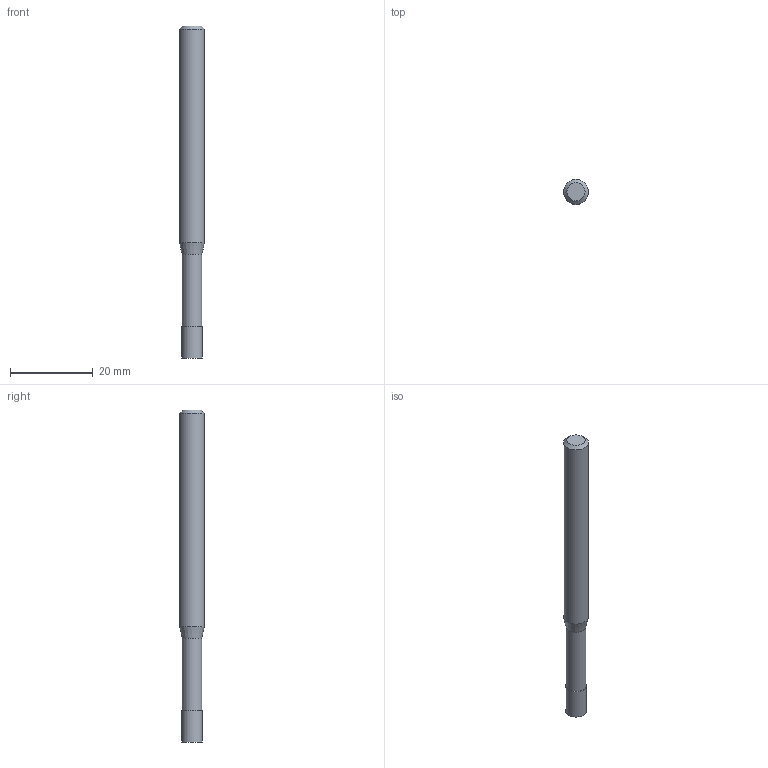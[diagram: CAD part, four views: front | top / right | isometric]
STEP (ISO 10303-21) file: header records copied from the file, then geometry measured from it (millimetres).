
FILE_DESCRIPTION((''),'2;1');
FILE_NAME('C:\Users\nsx150\AppData\Local\Temp\Mastercam 2021\EUJSUNXURU\TEMP.step','2021-04-22T10:28:33',(''),(''),'STEP Write','Mastercam 2021 ... CNC Software, Inc.','');
FILE_SCHEMA(('AUTOMOTIVE_DESIGN'));
Length unit declared in the file: millimetre
Products named in the file (1): None
Bounding box: 6 x 6 x 80 mm (x, y, z)
Volume: 1998.6 mm3; surface area: 1490.2 mm2
Topology: 2 solids, 2 shells, 9 faces, 12 edges, 7 vertices
Faces by surface type: plane 4, cylinder 3, cone 2
Full cylindrical faces by diameter (mm): 4.8 x1, 5 x1, 6 x1
Entity records: 211 total; most frequent: DIRECTION 36, CARTESIAN_POINT 25, AXIS2_PLACEMENT_3D 18, ORIENTED_EDGE 14, EDGE_LOOP 14, STYLED_ITEM 12, ADVANCED_FACE 9, FACE_BOUND 8
